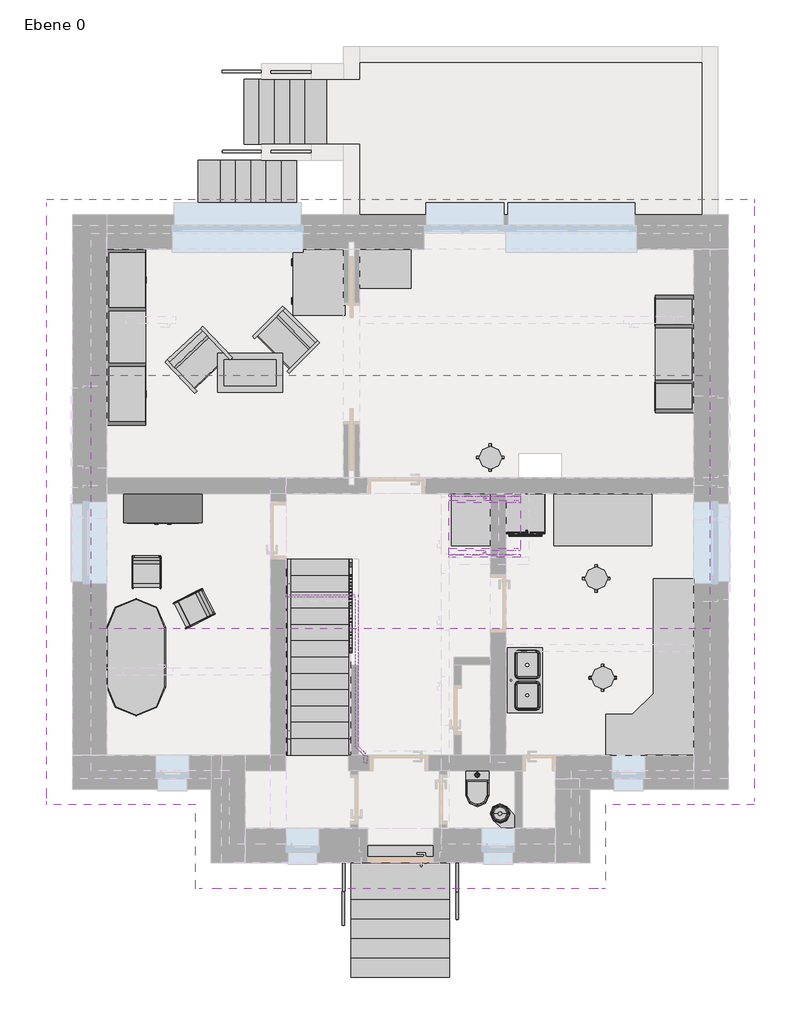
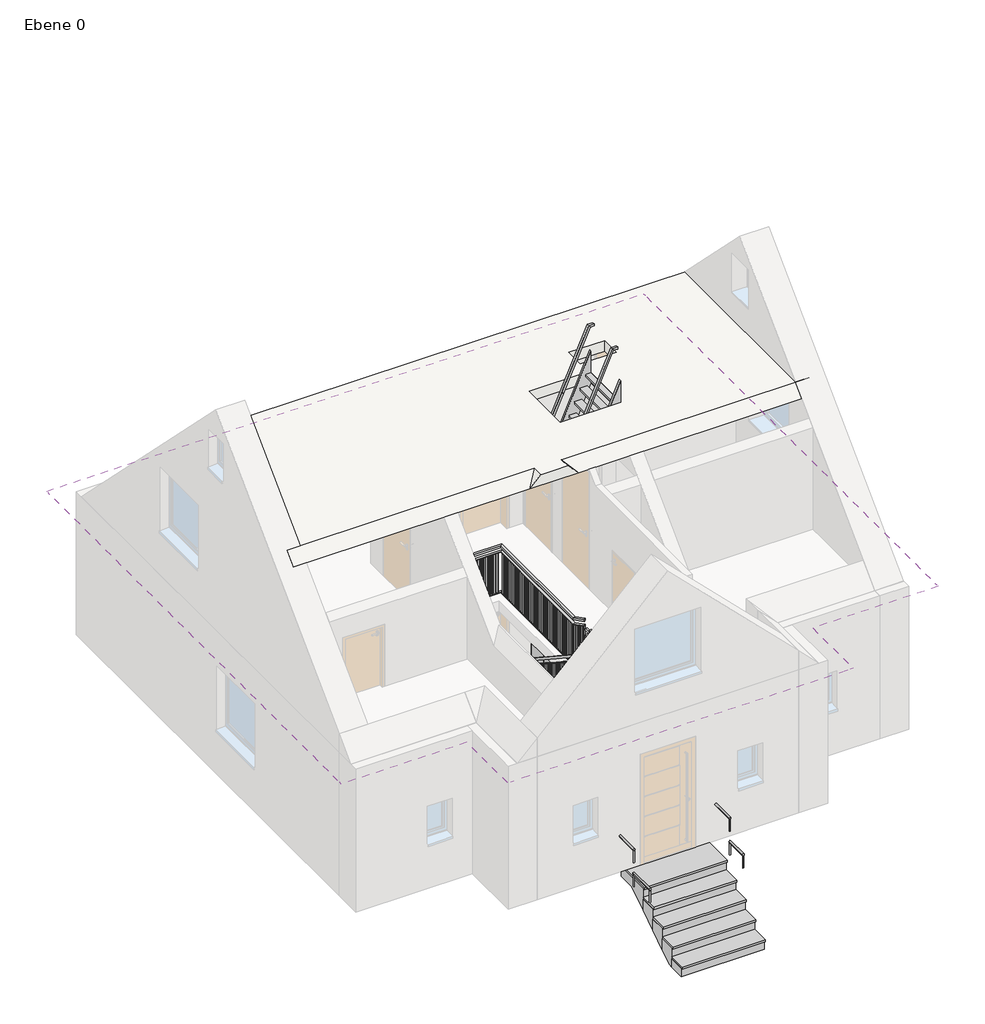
# One storey, part 3 of 3: 17 furniture elements, 16 railings, 5 stair flights, 4 members, 3 flow terminals, 3 slabs, 2 proxies, 1 roof.
"""IFC4 building model written with IfcOpenShell, lengths in millimetres."""

from ifc_helpers import new_model, si_unit, frame, origin, place, context, project, spatial, polyline, outline, extrude, faceted_brep, transform, mapped, element, save
from components import electrical_equipment_04802fdb, electrical_equipment_621d5f77, flow_terminal_1000_x_535_82328010, flow_terminal_35_x_55cm_6441f3d0, waschbecken_03_waschbecken_093a886d, furniture_1000_x_600_x_450_2671d195, furniture_1000_x_760_x_760_02e18f98, furniture_800_x_600_x_800_ba27f6a6, schrank_09_1200_x_450_x_2200_a26f84f2, schrank_12_1800_x_600_x_1800_5341ef42, schrank_12_2700_x_600_x_2100_568bd233, sofa_05_b_800_2b4523ea, stuhl_04_typ1_6c77dc19, tisch_08_oval_1800_x_900_glas_ae678d82, tisch_17_1500_x_800_x_750_a301e799, typ1_ea9e3636, typ1_24384e5f, railing_ba4ef4f0, railing_844731f6, railing_a331e073, railing_564460aa, railing_68ffcd14, railing_879b9470, railing_46543788, railing_ffa2e5ba, railing_2217c0fb, railing_82520da3, railing_3a00c38e, railing_bb0542ad, handlauf_holz_37a11ede, handlauf_holz_fd729e07, handlauf_holz_bf88dba0, handlauf_holz_f6a84104, stair_flight_0ae1a87a, stair_flight_21483602

model = new_model("IFC4")

# Units and contexts
model_context = context("Model", 3, world=origin())
ifc_project = project(units=[si_unit("LENGTHUNIT", "METRE", prefix="MILLI")], contexts=[model_context])

# Site, building, storey
site = spatial("IfcSite", under=ifc_project)
building = spatial("IfcBuilding", under=site)
storey = spatial("IfcBuildingStorey", under=building, Name="Ebene 0", Elevation=1000.0)

# Proxies
placement = place(None, origin())
electrical_equipment_shape = electrical_equipment_04802fdb(model_context)
element("IfcBuildingElementProxy", 1, Name="Backofen-Herdplatte-Kombi : 850  x 597  x 597", ObjectType="Backofen-Herdplatte-Kombi : 850  x 597  x 597", at=placement, inside=storey, context=model_context, shape_type="MappedRepresentation", body=[
    mapped(electrical_equipment_shape, transform((4658.6733882, 5200.0, 1100.0), x_axis=(1.0, 0.0, 0.0), y_axis=(0.0, 1.0, 0.0), z_axis=(0.0, 0.0, 1.0))),
])
electrical_equipment_2_shape = electrical_equipment_621d5f77(model_context)
element("IfcBuildingElementProxy", 2, Name="Glas-Kochfläche-6fach eingefasst-Kante : 576  x 516", ObjectType="Glas-Kochfläche-6fach eingefasst-Kante : 576  x 516", at=placement, inside=storey, context=model_context, shape_type="MappedRepresentation", body=[
    mapped(electrical_equipment_2_shape, transform((4663.5, 5201.5, 1950.0), x_axis=(1.0, 0.0, 0.0), y_axis=(0.0, 1.0, 0.0), z_axis=(0.0, 0.0, 1.0))),
])

# Flow terminals
flow_terminal_1000_x_535_shape = flow_terminal_1000_x_535_82328010(model_context)
element("IfcFlowTerminal", 3, ObjectType="Spülbecken Küche-Doppelt : 1000 x 535", at=placement, inside=storey, context=model_context, shape_type="MappedRepresentation", body=[
    mapped(flow_terminal_1000_x_535_shape, transform((4655.5454011, 2622.4107594, 1800.0), x_axis=(0.0, 1.0, 0.0), y_axis=(-1.0, 0.0, 0.0), z_axis=(0.0, 0.0, 1.0))),
])
flow_terminal_35_x_55cm_shape = flow_terminal_35_x_55cm_6441f3d0(model_context)
element("IfcFlowTerminal", 4, ObjectType="WC AP-Druckspüler : 35 x 55cm", at=placement, inside=storey, context=model_context, shape_type="MappedRepresentation", body=[
    mapped(flow_terminal_35_x_55cm_shape, transform((3925.0, 1250.0, 1100.0), x_axis=(1.0, 0.0, 0.0), y_axis=(0.0, 1.0, 0.0), z_axis=(0.0, 0.0, 1.0))),
])
waschbecken_03_waschbecken_shape = waschbecken_03_waschbecken_093a886d(model_context)
element("IfcFlowTerminal", 5, ObjectType="Waschbecken 03 : Waschbecken", at=placement, inside=storey, context=model_context, shape_type="MappedRepresentation", body=[
    mapped(waschbecken_03_waschbecken_shape, transform((4500.0, 376.4966705, 1100.0), x_axis=(-0.9997802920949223, -0.02096109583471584, 0.0), y_axis=(0.02096109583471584, -0.9997802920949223, 0.0), z_axis=(0.0, 0.0, 1.0))),
])

# Furniture
furniture_1000_x_600_x_450_shape = furniture_1000_x_600_x_450_2671d195(model_context)
element("IfcFurniture", 6, ObjectType="Tisch-05 Glasausschnitt : 1000 x 600 x 450", at=placement, inside=storey, context=model_context, shape_type="MappedRepresentation", body=[
    mapped(furniture_1000_x_600_x_450_shape, transform((421.7342333, 7254.7889222, 1000.0), x_axis=(1.0, 0.0, 0.0), y_axis=(0.0, 1.0, 0.0), z_axis=(0.0, 0.0, 1.0))),
])
furniture_1000_x_760_x_760_shape = furniture_1000_x_760_x_760_02e18f98(model_context)
element("IfcFurniture", 7, ObjectType="Schreibtisch-06 : 1000 x 760 x 760", at=placement, inside=storey, context=model_context, shape_type="MappedRepresentation", body=[
    mapped(furniture_1000_x_760_x_760_shape, transform((1114.0, 9512.0, 1000.0), x_axis=(0.0, -1.0, 0.0), y_axis=(1.0, 0.0, 0.0), z_axis=(0.0, 0.0, 1.0))),
])
furniture_800_x_600_x_800_shape = furniture_800_x_600_x_800_ba27f6a6(model_context)
element("IfcFurniture", 8, ObjectType="Kommode-01 : 800 x 600 x 800", at=placement, inside=storey, context=model_context, shape_type="MappedRepresentation", body=[
    mapped(furniture_800_x_600_x_800_shape, transform((3725.0, 5100.0, 1000.0), x_axis=(0.0, -1.0, 0.0), y_axis=(1.0, 0.0, 0.0), z_axis=(0.0, 0.0, 1.0))),
])
element("IfcFurniture", 9, ObjectType="Kommode-01 : 800 x 600 x 800", at=placement, inside=storey, context=model_context, shape_type="MappedRepresentation", body=[
    mapped(furniture_800_x_600_x_800_shape, transform((2505.0, 8850.0, 1000.0), x_axis=(1.0, 0.0, 0.0), y_axis=(0.0, 1.0, 0.0), z_axis=(0.0, 0.0, 1.0))),
])
schrank_09_1200_x_450_x_2200_shape = schrank_09_1200_x_450_x_2200_a26f84f2(model_context)
element("IfcFurniture", 10, ObjectType="Schrank-09 : 1200 x 450 x 2200", at=placement, inside=storey, context=model_context, shape_type="MappedRepresentation", body=[
    mapped(schrank_09_1200_x_450_x_2200_shape, transform((-630.8067402, 5638.1629541, 1000.0), x_axis=(1.0, 0.0, 0.0), y_axis=(0.0, 1.0, 0.0), z_axis=(0.0, 0.0, 1.0))),
])
schrank_12_1800_x_600_x_1800_shape = schrank_12_1800_x_600_x_1800_5341ef42(model_context)
element("IfcFurniture", 11, ObjectType="Schrank-12 : 1800 x 600 x 1800", at=placement, inside=storey, context=model_context, shape_type="MappedRepresentation", body=[
    mapped(schrank_12_1800_x_600_x_1800_shape, transform((7356.4, 7640.0, 1000.0), x_axis=(0.0, -1.0, 0.0), y_axis=(1.0, 0.0, 0.0), z_axis=(0.0, 0.0, 1.0))),
])
schrank_12_2700_x_600_x_2100_shape = schrank_12_2700_x_600_x_2100_568bd233(model_context)
element("IfcFurniture", 12, ObjectType="Schrank-12 : 2700 x 600 x 2100", at=placement, inside=storey, context=model_context, shape_type="MappedRepresentation", body=[
    mapped(schrank_12_2700_x_600_x_2100_shape, transform((-1866.4, 7900.0, 1000.0), x_axis=(0.0, 1.0, 0.0), y_axis=(-1.0, 0.0, 0.0), z_axis=(0.0, 0.0, 1.0))),
])
sofa_05_b_800_shape = sofa_05_b_800_2b4523ea(model_context)
element("IfcFurniture", 13, ObjectType="Sofa-05 : B 800", at=placement, inside=storey, context=model_context, shape_type="MappedRepresentation", body=[
    mapped(sofa_05_b_800_shape, transform((-300.7139071, 7395.4558069, 1000.0), x_axis=(0.7265975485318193, 0.6870633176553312, 0.0), y_axis=(-0.6870633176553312, 0.7265975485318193, 0.0), z_axis=(0.0, 0.0, 1.0))),
])
element("IfcFurniture", 14, ObjectType="Sofa-05 : B 800", at=placement, inside=storey, context=model_context, shape_type="MappedRepresentation", body=[
    mapped(sofa_05_b_800_shape, transform((836.893994, 7805.7563155, 1000.0), x_axis=(0.7071067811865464, -0.7071067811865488, 0.0), y_axis=(0.7071067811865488, 0.7071067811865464, 0.0), z_axis=(0.0, 0.0, 1.0))),
])
stuhl_04_typ1_shape = stuhl_04_typ1_6c77dc19(model_context)
element("IfcFurniture", 15, ObjectType="Stuhl-04 : Typ1", at=placement, inside=storey, context=model_context, shape_type="MappedRepresentation", body=[
    mapped(stuhl_04_typ1_shape, transform((-797.8947, 4524.7408621, 1000.0), x_axis=(1.0, 0.0, 0.0), y_axis=(0.0, 1.0, 0.0), z_axis=(0.0, 0.0, 1.0))),
])
element("IfcFurniture", 16, ObjectType="Stuhl-04 : Typ1", at=placement, inside=storey, context=model_context, shape_type="MappedRepresentation", body=[
    mapped(stuhl_04_typ1_shape, transform((-57.5438469, 3524.477641, 1000.0), x_axis=(0.4470333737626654, -0.8945172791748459, 0.0), y_axis=(0.8945172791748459, 0.4470333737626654, 0.0), z_axis=(0.0, 0.0, 1.0))),
])
tisch_08_oval_1800_x_900_glas_shape = tisch_08_oval_1800_x_900_glas_ae678d82(model_context)
element("IfcFurniture", 17, ObjectType="Tisch-08 oval : 1800 x 900 Glas", at=placement, inside=storey, context=model_context, shape_type="MappedRepresentation", body=[
    mapped(tisch_08_oval_1800_x_900_glas_shape, transform((-1668.0983607, 3391.8196721, 1000.0), x_axis=(0.0, 1.0, 0.0), y_axis=(-1.0, 0.0, 0.0), z_axis=(0.0, 0.0, 1.0))),
])
tisch_17_1500_x_800_x_750_shape = tisch_17_1500_x_800_x_750_a301e799(model_context)
element("IfcFurniture", 18, ObjectType="Tisch-17 : 1500 x 800 x 750", at=placement, inside=storey, context=model_context, shape_type="MappedRepresentation", body=[
    mapped(tisch_17_1500_x_800_x_750_shape, transform((5834.682456, 5060.8700593, 1100.0), x_axis=(1.0, 0.0, 0.0), y_axis=(0.0, 1.0, 0.0), z_axis=(0.0, 0.0, 1.0))),
])
typ1_shape = typ1_ea9e3636(model_context)
element("IfcFurniture", 19, ObjectType="Küchenzeile-05 Kombination : Typ1", at=placement, inside=storey, context=model_context, shape_type="MappedRepresentation", body=[
    mapped(typ1_shape, transform((8240.9255592, 3558.8064056, 1100.0), x_axis=(0.0, -1.0, 0.0), y_axis=(1.0, 0.0, 0.0), z_axis=(0.0, 0.0, 1.0))),
])
typ1_2_shape = typ1_24384e5f(model_context)
element("IfcFurniture", 20, ObjectType="Hocker-04 : Typ1", at=placement, inside=storey, context=model_context, shape_type="MappedRepresentation", body=[
    mapped(typ1_2_shape, transform((5750.0, 4200.0, 1100.0), x_axis=(1.0, 0.0, 0.0), y_axis=(0.0, 1.0, 0.0), z_axis=(0.0, 0.0, 1.0))),
])
element("IfcFurniture", 21, ObjectType="Hocker-04 : Typ1", at=placement, inside=storey, context=model_context, shape_type="MappedRepresentation", body=[
    mapped(typ1_2_shape, transform((5850.0, 2675.0, 1100.0), x_axis=(1.0, 0.0, 0.0), y_axis=(0.0, 1.0, 0.0), z_axis=(0.0, 0.0, 1.0))),
])
element("IfcFurniture", 22, ObjectType="Hocker-04 : Typ1", at=placement, inside=storey, context=model_context, shape_type="MappedRepresentation", body=[
    mapped(typ1_2_shape, transform((4125.0, 6050.868232, 1000.0), x_axis=(1.0, 0.0, 0.0), y_axis=(0.0, 1.0, 0.0), z_axis=(0.0, 0.0, 1.0))),
])

# Members
element("IfcMember", 23, ObjectType="Holz 40 x 260", at=placement, inside=storey, context=model_context, shape_type="SweptSolid", body=[
    extrude(outline(polyline([(4490.0, -1001.5849467), (4490.0, -1200.0), (4320.9042035, -1200.0), (1490.0, 875.9964159), (1490.0, 1198.4150533), (4490.0, -1001.5849467)])), frame((1980.0, 0.0, 0.0), z_axis=(1.0, 0.0, 0.0), x_axis=(0.0, 1.0, 0.0)), (0.0, 0.0, 1.0), 40.0),
])
element("IfcMember", 24, ObjectType="Holz 40 x 260", at=placement, inside=storey, context=model_context, shape_type="SweptSolid", body=[
    extrude(outline(polyline([(4490.0, -1001.5849467), (4490.0, -1200.0), (4320.9042035, -1200.0), (1490.0, 875.9964159), (1490.0, 1198.4150533), (4490.0, -1001.5849467)])), frame((940.0, 0.0, 0.0), z_axis=(1.0, 0.0, 0.0), x_axis=(0.0, 1.0, 0.0)), (0.0, 0.0, 1.0), 40.0),
])
element("IfcMember", 25, ObjectType="Holz 40 x 260", at=placement, inside=storey, context=model_context, shape_type="SweptSolid", body=[
    extrude(outline(polyline([(4163.2481927, 3490.0), (3750.0, 3490.0), (3750.0, 3592.2260011), (6017.6681792, 4590.0), (6663.2481927, 4590.0), (4163.2481927, 3490.0)])), frame((0.0, 5460.0, 0.0), z_axis=(0.0, 1.0, 0.0), x_axis=(0.0, 0.0, 1.0)), (0.0, 0.0, 1.0), 40.0),
])
element("IfcMember", 26, ObjectType="Holz 40 x 260", at=placement, inside=storey, context=model_context, shape_type="SweptSolid", body=[
    extrude(outline(polyline([(4163.2481927, 3490.0), (3750.0, 3490.0), (3750.0, 3592.2260011), (6017.6681792, 4590.0), (6663.2481927, 4590.0), (4163.2481927, 3490.0)])), frame((0.0, 4520.0, 0.0), z_axis=(0.0, 1.0, 0.0), x_axis=(0.0, 0.0, 1.0)), (0.0, 0.0, 1.0), 40.0),
])

# Railings
railing_shape = railing_ba4ef4f0(model_context)
element("IfcRailing", 27, ObjectType="Vertikale Stäbe mit Handlauf", at=placement, inside=storey, context=model_context, shape_type="MappedRepresentation", body=[
    mapped(railing_shape, transform((0.0, 0.0, 0.0), x_axis=(1.0, 0.0, 0.0), y_axis=(0.0, 1.0, 0.0), z_axis=(0.0, 0.0, 1.0))),
])
railing_2_shape = railing_844731f6(model_context)
element("IfcRailing", 28, ObjectType="Vertikale Stäbe", at=placement, inside=storey, context=model_context, shape_type="MappedRepresentation", body=[
    mapped(railing_2_shape, transform((0.0, 0.0, 0.0), x_axis=(1.0, 0.0, 0.0), y_axis=(0.0, 1.0, 0.0), z_axis=(0.0, 0.0, 1.0))),
])
railing_3_shape = railing_a331e073(model_context)
element("IfcRailing", 29, ObjectType="Geländer-1", at=placement, inside=storey, context=model_context, shape_type="MappedRepresentation", body=[
    mapped(railing_3_shape, transform((0.0, 0.0, 0.0), x_axis=(1.0, 0.0, 0.0), y_axis=(0.0, 1.0, 0.0), z_axis=(0.0, 0.0, 1.0))),
])
railing_4_shape = railing_564460aa(model_context)
element("IfcRailing", 30, ObjectType="Geländer-1", at=placement, inside=storey, context=model_context, shape_type="MappedRepresentation", body=[
    mapped(railing_4_shape, transform((0.0, 0.0, 0.0), x_axis=(1.0, 0.0, 0.0), y_axis=(0.0, 1.0, 0.0), z_axis=(0.0, 0.0, 1.0))),
])
railing_5_shape = railing_68ffcd14(model_context)
element("IfcRailing", 31, ObjectType="Geländer-1", at=placement, inside=storey, context=model_context, shape_type="MappedRepresentation", body=[
    mapped(railing_5_shape, transform((0.0, 0.0, 0.0), x_axis=(1.0, 0.0, 0.0), y_axis=(0.0, 1.0, 0.0), z_axis=(0.0, 0.0, 1.0))),
])
railing_6_shape = railing_879b9470(model_context)
element("IfcRailing", 32, ObjectType="Geländer-1", at=placement, inside=storey, context=model_context, shape_type="MappedRepresentation", body=[
    mapped(railing_6_shape, transform((0.0, 0.0, 0.0), x_axis=(1.0, 0.0, 0.0), y_axis=(0.0, 1.0, 0.0), z_axis=(0.0, 0.0, 1.0))),
])
railing_7_shape = railing_46543788(model_context)
element("IfcRailing", 33, ObjectType="Vertikale Stäbe mit Handlauf", at=placement, inside=storey, context=model_context, shape_type="MappedRepresentation", body=[
    mapped(railing_7_shape, transform((0.0, 0.0, 0.0), x_axis=(1.0, 0.0, 0.0), y_axis=(0.0, 1.0, 0.0), z_axis=(0.0, 0.0, 1.0))),
])
railing_8_shape = railing_ffa2e5ba(model_context)
element("IfcRailing", 34, ObjectType="Vertikale Stäbe mit Handlauf", at=placement, inside=storey, context=model_context, shape_type="MappedRepresentation", body=[
    mapped(railing_8_shape, transform((0.0, 0.0, 0.0), x_axis=(1.0, 0.0, 0.0), y_axis=(0.0, 1.0, 0.0), z_axis=(0.0, 0.0, 1.0))),
])
railing_9_shape = railing_2217c0fb(model_context)
element("IfcRailing", 35, ObjectType="Geländer-1", at=placement, inside=storey, context=model_context, shape_type="MappedRepresentation", body=[
    mapped(railing_9_shape, transform((0.0, 0.0, 0.0), x_axis=(1.0, 0.0, 0.0), y_axis=(0.0, 1.0, 0.0), z_axis=(0.0, 0.0, 1.0))),
])
railing_10_shape = railing_82520da3(model_context)
element("IfcRailing", 36, ObjectType="Geländer-1", at=placement, inside=storey, context=model_context, shape_type="MappedRepresentation", body=[
    mapped(railing_10_shape, transform((0.0, 0.0, 0.0), x_axis=(1.0, 0.0, 0.0), y_axis=(0.0, 1.0, 0.0), z_axis=(0.0, 0.0, 1.0))),
])
railing_11_shape = railing_3a00c38e(model_context)
element("IfcRailing", 37, ObjectType="Geländer-1", at=placement, inside=storey, context=model_context, shape_type="MappedRepresentation", body=[
    mapped(railing_11_shape, transform((0.0, 0.0, 0.0), x_axis=(1.0, 0.0, 0.0), y_axis=(0.0, 1.0, 0.0), z_axis=(0.0, 0.0, 1.0))),
])
railing_12_shape = railing_bb0542ad(model_context)
element("IfcRailing", 38, ObjectType="Geländer-1", at=placement, inside=storey, context=model_context, shape_type="MappedRepresentation", body=[
    mapped(railing_12_shape, transform((0.0, 0.0, 0.0), x_axis=(1.0, 0.0, 0.0), y_axis=(0.0, 1.0, 0.0), z_axis=(0.0, 0.0, 1.0))),
])
handlauf_holz_shape = handlauf_holz_37a11ede(model_context)
element("IfcRailing", 39, ObjectType="Handlauf Holz", at=placement, inside=storey, context=model_context, shape_type="MappedRepresentation", body=[
    mapped(handlauf_holz_shape, transform((0.0, 0.0, 0.0), x_axis=(1.0, 0.0, 0.0), y_axis=(0.0, 1.0, 0.0), z_axis=(0.0, 0.0, 1.0))),
])
handlauf_holz_2_shape = handlauf_holz_fd729e07(model_context)
element("IfcRailing", 40, ObjectType="Handlauf Holz", at=placement, inside=storey, context=model_context, shape_type="MappedRepresentation", body=[
    mapped(handlauf_holz_2_shape, transform((0.0, 0.0, 0.0), x_axis=(1.0, 0.0, 0.0), y_axis=(0.0, 1.0, 0.0), z_axis=(0.0, 0.0, 1.0))),
])
handlauf_holz_3_shape = handlauf_holz_bf88dba0(model_context)
element("IfcRailing", 41, ObjectType="Handlauf Holz", at=placement, inside=storey, context=model_context, shape_type="MappedRepresentation", body=[
    mapped(handlauf_holz_3_shape, transform((0.0, 0.0, 0.0), x_axis=(1.0, 0.0, 0.0), y_axis=(0.0, 1.0, 0.0), z_axis=(0.0, 0.0, 1.0))),
])
handlauf_holz_4_shape = handlauf_holz_f6a84104(model_context)
element("IfcRailing", 42, ObjectType="Handlauf Holz", at=placement, inside=storey, context=model_context, shape_type="MappedRepresentation", body=[
    mapped(handlauf_holz_4_shape, transform((0.0, 0.0, 0.0), x_axis=(1.0, 0.0, 0.0), y_axis=(0.0, 1.0, 0.0), z_axis=(0.0, 0.0, 1.0))),
])

# Roof
element("IfcRoof", 43, ObjectType="Ziegeldach 360", at=placement, inside=storey, context=model_context, shape_type="Brep", body=[
    faceted_brep([(3.0508653, 1128.0508653, 3753.0508653), (-2685.0, 1128.0508653, 3753.0508653), (-2685.0, 5370.0, 7995.0), (8175.0, 5370.0, 7995.0), (8175.0, 1128.0508653, 3753.0508653), (5486.9491347, 1128.0508653, 3753.0508653), (3190.0, 3425.0, 6050.0), (2990.0, 3625.0, 6250.0), (2745.0, 3870.0, 6495.0), (2500.0, 3625.0, 6250.0), (2300.0, 3425.0, 6050.0), (960.0, 2085.0, 4710.0), (750.0, 1875.0, 4500.0), (2745.0, 365.0, 6495.0), (2745.0, -160.0, 6495.0), (2745.0, -560.0, 6495.0), (3.0508653, -560.0, 3753.0508653), (5486.9491347, -560.0, 3753.0508653), (-2685.0, 9611.9491347, 3753.0508653), (8175.0, 9611.9491347, 3753.0508653), (5215.0, 5751.2341615, 7613.7658385), (5215.0, 6111.2341615, 7253.7658385), (4565.0, 6111.2341615, 7253.7658385), (4565.0, 5751.2341615, 7613.7658385), (-400.0, 725.0, 3859.1168825), (2745.0, 3870.0, 7004.1168825), (5890.0, 725.0, 3859.1168825), (8175.0, 725.0, 3859.1168825), (8175.0, 5370.0, 8504.1168825), (-2685.0, 5370.0, 8504.1168825), (-2685.0, 725.0, 3859.1168825), (-400.0, -560.0, 3859.1168825), (2745.0, -560.0, 7004.1168825), (5890.0, -560.0, 3859.1168825), (8175.0, 10015.0, 3859.1168825), (-2685.0, 10015.0, 3859.1168825), (5215.0, 6111.2341615, 7762.8827209), (5215.0, 5751.2341615, 8122.8827209), (4565.0, 5751.2341615, 8122.8827209), (4565.0, 6111.2341615, 7762.8827209), (-293.9339828, -560.0, 3753.0508653), (-293.9339828, 831.0660172, 3753.0508653), (-2685.0, 831.0660172, 3753.0508653), (8175.0, 831.0660172, 3753.0508653), (5783.9339828, 831.0660172, 3753.0508653), (5783.9339828, -560.0, 3753.0508653), (-2685.0, 9908.9339828, 3753.0508653), (8175.0, 9908.9339828, 3753.0508653)], [[[0, 1, 2, 3, 4, 5, 6, 7, 8, 9, 10, 11, 12]], [[0, 12, 11, 10, 9, 8, 13, 14, 15, 16]], [[8, 7, 6, 5, 17, 15, 14, 13]], [[3, 2, 18, 19], [20, 21, 22, 23]], [[24, 25, 26, 27, 28, 29, 30]], [[25, 24, 31, 32]], [[26, 25, 32, 33]], [[29, 28, 34, 35], [36, 37, 38, 39]], [[1, 0, 16, 40, 41, 42]], [[5, 4, 43, 44, 45, 17]], [[19, 18, 46, 47]], [[2, 1, 42, 30, 29, 35, 46, 18]], [[16, 15, 17, 45, 33, 32, 31, 40]], [[4, 3, 19, 47, 34, 28, 27, 43]], [[24, 30, 42, 41]], [[31, 24, 41, 40]], [[26, 33, 45, 44]], [[27, 26, 44, 43]], [[35, 34, 47, 46]], [[20, 37, 36, 21]], [[21, 36, 39, 22]], [[22, 39, 38, 23]], [[37, 20, 23, 38]]]),
])

# Slabs
element("IfcSlab", 44, ObjectType="FB 100 Terrazzo", at=placement, inside=storey, context=model_context, shape_type="SweptSolid", body=[
    extrude(outline(polyline([(-127.7321905, -360.0), (-1327.7321905, 1150.0), (-1200.0, 1150.0), (0.0, -360.0), (-127.7321905, -360.0)])), frame((0.0, 9615.0, 0.0), z_axis=(0.0, 1.0, 0.0), x_axis=(0.0, 0.0, 1.0)), (0.0, 0.0, 1.0), 1000.0),
])
element("IfcSlab", 45, ObjectType="STB 200", at=placement, inside=storey, context=model_context, shape_type="Brep", body=[
    faceted_brep([(1995.0, 12235.0, 800.0), (7375.0, 12235.0, 800.0), (7495.0, 12235.0, 800.0), (7495.0, 9775.0, 800.0), (7495.0, 9615.0, 800.0), (1995.0, 9615.0, 800.0), (1995.0, 9775.0, 800.0), (1995.0, 10735.0, 800.0), (1875.0, 10735.0, 800.0), (1620.0, 10735.0, 800.0), (1620.0, 11855.0, 800.0), (1995.0, 11855.0, 800.0), (7495.0, 12235.0, 1000.0), (7375.0, 12235.0, 1000.0), (1995.0, 12235.0, 1000.0), (1995.0, 11855.0, 1000.0), (1875.0, 11855.0, 1000.0), (1620.0, 11855.0, 1000.0), (1620.0, 10855.0, 1000.0), (1620.0, 10735.0, 1000.0), (1875.0, 10735.0, 1000.0), (1995.0, 10735.0, 1000.0), (1995.0, 9775.0, 1000.0), (1995.0, 9615.0, 1000.0), (7495.0, 9615.0, 1000.0), (7495.0, 9775.0, 1000.0), (1620.0, 11855.0, 960.0), (1620.0, 10855.0, 960.0), (1620.0, 10845.0, 960.0), (1620.0, 10845.0, 850.0), (1620.0, 11855.0, 850.0), (1630.0, 11855.0, 850.0), (1630.0, 11855.0, 960.0), (1630.0, 10845.0, 960.0), (1630.0, 10845.0, 850.0)], [[[0, 1, 2, 3, 4, 5, 6, 7, 8, 9, 10, 11]], [[12, 13, 14, 15, 16, 17, 18, 19, 20, 21, 22, 23, 24, 25]], [[2, 1, 0, 14, 13, 12]], [[4, 3, 2, 12, 25, 24]], [[5, 4, 24, 23]], [[7, 6, 5, 23, 22, 21]], [[9, 8, 7, 21, 20, 19]], [[10, 9, 19, 18, 17, 26, 27, 28, 29, 30]], [[11, 10, 30, 31, 32, 26, 17, 16, 15]], [[0, 11, 15, 14]], [[32, 33, 28, 27, 26]], [[29, 34, 31, 30]], [[33, 34, 29, 28]], [[34, 33, 32, 31]]]),
])
element("IfcSlab", 46, ObjectType="STB 200", at=placement, inside=storey, context=model_context, shape_type="Brep", body=[
    faceted_brep([(7490.0, 7315.0, 6050.0), (7490.0, 3425.0, 6050.0), (3190.0, 3425.0, 6050.0), (2300.0, 3425.0, 6050.0), (-1760.0, 3425.0, 6050.0), (-2000.0, 3425.0, 6050.0), (-2000.0, 7315.0, 6050.0), (-1760.0, 7315.0, 6050.0), (3490.0, 4520.0, 6050.0), (4590.0, 4520.0, 6050.0), (4590.0, 5500.0, 6050.0), (3490.0, 5500.0, 6050.0), (5215.0, 5751.2341615, 6050.0), (5215.0, 6111.2341615, 6050.0), (4565.0, 6111.2341615, 6050.0), (4565.0, 5751.2341615, 6050.0), (-2000.0, 7115.0, 6250.0), (-2000.0, 3625.0, 6250.0), (-1760.0, 3625.0, 6250.0), (2500.0, 3625.0, 6250.0), (2500.0, 3425.0, 6250.0), (2990.0, 3425.0, 6250.0), (2990.0, 3625.0, 6250.0), (7490.0, 3625.0, 6250.0), (7490.0, 7115.0, 6250.0), (-1760.0, 7115.0, 6250.0), (4590.0, 4520.0, 6250.0), (3490.0, 4520.0, 6250.0), (3490.0, 5500.0, 6250.0), (4590.0, 5500.0, 6250.0), (5215.0, 6111.2341615, 6250.0), (5215.0, 5751.2341615, 6250.0), (4565.0, 5751.2341615, 6250.0), (4565.0, 6111.2341615, 6250.0)], [[[0, 1, 2, 3, 4, 5, 6, 7], [8, 9, 10, 11], [12, 13, 14, 15]], [[16, 17, 18, 19, 20, 21, 22, 23, 24, 25], [26, 27, 28, 29], [30, 31, 32, 33]], [[1, 0, 24, 23]], [[3, 2, 21, 20]], [[6, 5, 17, 16]], [[3, 19, 18, 17, 5, 4]], [[22, 2, 1, 23]], [[19, 3, 20]], [[2, 22, 21]], [[0, 7, 6, 16, 25, 24]], [[9, 8, 27, 26]], [[10, 9, 26, 29]], [[11, 10, 29, 28]], [[8, 11, 28, 27]], [[12, 31, 30, 13]], [[13, 30, 33, 14]], [[14, 33, 32, 15]], [[31, 12, 15, 32]]]),
])

# Stair flights
element("IfcStairFlight", 47, ObjectType="Naturstein - Auftritt 40 / Trittüberstand 30", at=placement, inside=storey, context=model_context, shape_type="SolidModel", body=[
    faceted_brep([(610.0, 11855.0, 160.0), (375.0, 11855.0, 160.0), (375.0, 10855.0, 160.0), (610.0, 10855.0, 160.0), (610.0, 11855.0, 0.0), (375.0, 11855.0, 0.0), (375.0, 10855.0, 0.0), (610.0, 10855.0, 0.0), (845.0, 11855.0, 360.0), (610.0, 11855.0, 360.0), (610.0, 10855.0, 360.0), (845.0, 10855.0, 360.0), (845.0, 11855.0, 123.6366517), (699.7269342, 11855.0, 0.0), (699.7269342, 10855.0, 0.0), (845.0, 10855.0, 123.6366517), (1080.0, 11855.0, 560.0), (845.0, 11855.0, 560.0), (845.0, 10855.0, 560.0), (1080.0, 10855.0, 560.0), (1080.0, 11855.0, 323.6366517), (1080.0, 10855.0, 323.6366517), (1315.0, 11855.0, 760.0), (1080.0, 11855.0, 760.0), (1080.0, 10855.0, 760.0), (1315.0, 10855.0, 760.0), (1315.0, 11855.0, 523.6366517), (1315.0, 10855.0, 523.6366517), (1315.0, 11855.0, 960.0), (1315.0, 10855.0, 960.0), (1620.0, 10855.0, 960.0), (1620.0, 11855.0, 960.0), (1620.0, 11855.0, 860.0), (1520.0, 11855.0, 860.0), (1520.0, 11855.0, 698.1047368), (1520.0, 10855.0, 698.1047368), (1520.0, 10855.0, 860.0), (1620.0, 10855.0, 860.0)], [[[0, 1, 2, 3]], [[1, 0, 4, 5]], [[2, 1, 5, 6]], [[3, 2, 6, 7]], [[8, 9, 10, 11]], [[4, 0, 9, 8, 12, 13]], [[0, 3, 10, 9]], [[3, 7, 14, 15, 11, 10]], [[16, 17, 18, 19]], [[17, 16, 20, 12, 8]], [[8, 11, 18, 17]], [[19, 18, 11, 15, 21]], [[22, 23, 24, 25]], [[23, 22, 26, 20, 16]], [[16, 19, 24, 23]], [[25, 24, 19, 21, 27]], [[28, 29, 30, 31]], [[28, 31, 32, 33, 34, 26, 22]], [[22, 25, 29, 28]], [[30, 29, 25, 27, 35, 36, 37]], [[35, 34, 33, 36]], [[5, 4, 13, 14, 7, 6]], [[14, 13, 12, 20, 26, 34, 35, 27, 21, 15]], [[37, 36, 33, 32]], [[37, 32, 31, 30]]]),
    extrude(outline(polyline([(610.0, 11855.0), (610.0, 10855.0), (345.0, 10855.0), (345.0, 11855.0), (610.0, 11855.0)])), frame((0.0, 0.0, 160.0), z_axis=(0.0, 0.0, 1.0), x_axis=(1.0, 0.0, 0.0)), (0.0, 0.0, 1.0), 40.0),
    extrude(outline(polyline([(845.0, 11855.0), (845.0, 10855.0), (580.0, 10855.0), (580.0, 11855.0), (845.0, 11855.0)])), frame((0.0, 0.0, 360.0), z_axis=(0.0, 0.0, 1.0), x_axis=(1.0, 0.0, 0.0)), (0.0, 0.0, 1.0), 40.0),
    extrude(outline(polyline([(1080.0, 11855.0), (1080.0, 10855.0), (815.0, 10855.0), (815.0, 11855.0), (1080.0, 11855.0)])), frame((0.0, 0.0, 560.0), z_axis=(0.0, 0.0, 1.0), x_axis=(1.0, 0.0, 0.0)), (0.0, 0.0, 1.0), 40.0),
    extrude(outline(polyline([(1315.0, 11855.0), (1315.0, 10855.0), (1050.0, 10855.0), (1050.0, 11855.0), (1315.0, 11855.0)])), frame((0.0, 0.0, 760.0), z_axis=(0.0, 0.0, 1.0), x_axis=(1.0, 0.0, 0.0)), (0.0, 0.0, 1.0), 40.0),
    extrude(outline(polyline([(1620.0, 11855.0), (1620.0, 10855.0), (1285.0, 10855.0), (1285.0, 11855.0), (1620.0, 11855.0)])), frame((0.0, 0.0, 960.0), z_axis=(0.0, 0.0, 1.0), x_axis=(1.0, 0.0, 0.0)), (0.0, 0.0, 1.0), 40.0),
])
element("IfcStairFlight", 48, ObjectType="Naturstein - Auftritt 40 / Trittüberstand 30", at=placement, inside=storey, context=model_context, shape_type="SolidModel", body=[
    faceted_brep([(885.0, 9615.0, -1040.0), (1120.0, 9615.0, -1040.0), (1120.0, 10615.0, -1040.0), (885.0, 10615.0, -1040.0), (885.0, 9615.0, -1200.0), (1120.0, 9615.0, -1200.0), (1120.0, 10615.0, -1200.0), (885.0, 10615.0, -1200.0), (650.0, 9615.0, -840.0), (885.0, 9615.0, -840.0), (885.0, 10615.0, -840.0), (650.0, 10615.0, -840.0), (650.0, 9615.0, -1076.3633483), (795.2730658, 9615.0, -1200.0), (795.2730658, 10615.0, -1200.0), (650.0, 10615.0, -1076.3633483), (415.0, 9615.0, -640.0), (650.0, 9615.0, -640.0), (650.0, 10615.0, -640.0), (415.0, 10615.0, -640.0), (415.0, 9615.0, -876.3633483), (415.0, 10615.0, -876.3633483), (180.0, 9615.0, -440.0), (415.0, 9615.0, -440.0), (415.0, 10615.0, -440.0), (180.0, 10615.0, -440.0), (180.0, 9615.0, -676.3633483), (180.0, 10615.0, -676.3633483), (-55.0, 9615.0, -476.3633483), (-260.0, 9615.0, -301.8952632), (-260.0, 10615.0, -301.8952632), (-55.0, 10615.0, -476.3633483), (-360.0, 10615.0, -140.0), (-260.0, 10615.0, -140.0), (-260.0, 9615.0, -140.0), (-360.0, 9615.0, -140.0), (-360.0, 9615.0, -40.0), (-360.0, 10615.0, -40.0), (-55.0, 9615.0, -240.0), (180.0, 9615.0, -240.0), (180.0, 10615.0, -240.0), (-55.0, 10615.0, -240.0), (-55.0, 9615.0, -40.0), (-55.0, 10615.0, -40.0)], [[[0, 1, 2, 3]], [[1, 0, 4, 5]], [[2, 1, 5, 6]], [[3, 2, 6, 7]], [[8, 9, 10, 11]], [[4, 0, 9, 8, 12, 13]], [[0, 3, 10, 9]], [[3, 7, 14, 15, 11, 10]], [[16, 17, 18, 19]], [[17, 16, 20, 12, 8]], [[8, 11, 18, 17]], [[19, 18, 11, 15, 21]], [[22, 23, 24, 25]], [[23, 22, 26, 20, 16]], [[16, 19, 24, 23]], [[25, 24, 19, 21, 27]], [[5, 4, 13, 14, 7, 6]], [[14, 13, 12, 20, 26, 28, 29, 30, 31, 27, 21, 15]], [[32, 33, 34, 35]], [[32, 35, 36, 37]], [[38, 39, 40, 41]], [[39, 38, 28, 26, 22]], [[22, 25, 40, 39]], [[41, 40, 25, 27, 31]], [[42, 43, 37, 36]], [[42, 36, 35, 34, 29, 28, 38]], [[38, 41, 43, 42]], [[37, 43, 41, 31, 30, 33, 32]], [[30, 29, 34, 33]]]),
    extrude(outline(polyline([(885.0, 9615.0), (885.0, 10615.0), (1150.0, 10615.0), (1150.0, 9615.0), (885.0, 9615.0)])), frame((0.0, 0.0, -1040.0), z_axis=(0.0, 0.0, 1.0), x_axis=(1.0, 0.0, 0.0)), (0.0, 0.0, 1.0), 40.0),
    extrude(outline(polyline([(650.0, 9615.0), (650.0, 10615.0), (915.0, 10615.0), (915.0, 9615.0), (650.0, 9615.0)])), frame((0.0, 0.0, -840.0), z_axis=(0.0, 0.0, 1.0), x_axis=(1.0, 0.0, 0.0)), (0.0, 0.0, 1.0), 40.0),
    extrude(outline(polyline([(415.0, 9615.0), (415.0, 10615.0), (680.0, 10615.0), (680.0, 9615.0), (415.0, 9615.0)])), frame((0.0, 0.0, -640.0), z_axis=(0.0, 0.0, 1.0), x_axis=(1.0, 0.0, 0.0)), (0.0, 0.0, 1.0), 40.0),
    extrude(outline(polyline([(180.0, 9615.0), (180.0, 10615.0), (445.0, 10615.0), (445.0, 9615.0), (180.0, 9615.0)])), frame((0.0, 0.0, -440.0), z_axis=(0.0, 0.0, 1.0), x_axis=(1.0, 0.0, 0.0)), (0.0, 0.0, 1.0), 40.0),
    extrude(outline(polyline([(-55.0, 9615.0), (-55.0, 10615.0), (210.0, 10615.0), (210.0, 9615.0), (-55.0, 9615.0)])), frame((0.0, 0.0, -240.0), z_axis=(0.0, 0.0, 1.0), x_axis=(1.0, 0.0, 0.0)), (0.0, 0.0, 1.0), 40.0),
    extrude(outline(polyline([(-360.0, 9615.0), (-360.0, 10615.0), (-25.0, 10615.0), (-25.0, 9615.0), (-360.0, 9615.0)])), frame((0.0, 0.0, -40.0), z_axis=(0.0, 0.0, 1.0), x_axis=(1.0, 0.0, 0.0)), (0.0, 0.0, 1.0), 40.0),
])
element("IfcStairFlight", 49, ObjectType="Naturstein - Auftritt 40 / Trittüberstand 30", at=placement, inside=storey, context=model_context, shape_type="SolidModel", body=[
    faceted_brep([(1990.0, -1590.0, 160.0), (1990.0, -1890.0, 160.0), (3500.0, -1890.0, 160.0), (3500.0, -1590.0, 160.0), (1990.0, -1590.0, 0.0), (1990.0, -1890.0, 0.0), (3500.0, -1890.0, 0.0), (3500.0, -1590.0, 0.0), (1990.0, -1290.0, 360.0), (1990.0, -1590.0, 360.0), (3500.0, -1590.0, 360.0), (3500.0, -1290.0, 360.0), (1990.0, -1290.0, 143.6669235), (1990.0, -1505.5003852, 0.0), (3500.0, -1505.5003852, 0.0), (3500.0, -1290.0, 143.6669235), (1990.0, -990.0, 560.0), (1990.0, -1290.0, 560.0), (3500.0, -1290.0, 560.0), (3500.0, -990.0, 560.0), (1990.0, -990.0, 343.6669235), (3500.0, -990.0, 343.6669235), (1990.0, -335.5003852, 780.0), (3500.0, -335.5003852, 780.0), (3500.0, -690.0, 543.6669235), (1990.0, -690.0, 543.6669235), (3500.0, 100.0, 860.0), (3500.0, 0.0, 860.0), (1990.0, 0.0, 860.0), (1990.0, 100.0, 860.0), (1990.0, 100.0, 960.0), (3500.0, 100.0, 960.0), (1990.0, 0.0, 780.0), (3500.0, 0.0, 780.0), (1990.0, -690.0, 760.0), (1990.0, -990.0, 760.0), (3500.0, -990.0, 760.0), (3500.0, -690.0, 760.0), (1990.0, -690.0, 960.0), (3500.0, -690.0, 960.0)], [[[0, 1, 2, 3]], [[1, 0, 4, 5]], [[2, 1, 5, 6]], [[3, 2, 6, 7]], [[8, 9, 10, 11]], [[4, 0, 9, 8, 12, 13]], [[0, 3, 10, 9]], [[3, 7, 14, 15, 11, 10]], [[16, 17, 18, 19]], [[17, 16, 20, 12, 8]], [[8, 11, 18, 17]], [[19, 18, 11, 15, 21]], [[5, 4, 13, 14, 7, 6]], [[22, 23, 24, 21, 15, 14, 13, 12, 20, 25]], [[26, 27, 28, 29]], [[26, 29, 30, 31]], [[23, 22, 32, 33]], [[34, 35, 36, 37]], [[35, 34, 25, 20, 16]], [[16, 19, 36, 35]], [[37, 36, 19, 21, 24]], [[38, 39, 31, 30]], [[34, 38, 30, 29, 28, 32, 22, 25]], [[34, 37, 39, 38]], [[31, 39, 37, 24, 23, 33, 27, 26]], [[33, 32, 28, 27]]]),
    extrude(outline(polyline([(1990.0, -1590.0), (3500.0, -1590.0), (3500.0, -1920.0), (1990.0, -1920.0), (1990.0, -1590.0)])), frame((0.0, 0.0, 160.0), z_axis=(0.0, 0.0, 1.0), x_axis=(1.0, 0.0, 0.0)), (0.0, 0.0, 1.0), 40.0),
    extrude(outline(polyline([(1990.0, -1290.0), (3500.0, -1290.0), (3500.0, -1620.0), (1990.0, -1620.0), (1990.0, -1290.0)])), frame((0.0, 0.0, 360.0), z_axis=(0.0, 0.0, 1.0), x_axis=(1.0, 0.0, 0.0)), (0.0, 0.0, 1.0), 40.0),
    extrude(outline(polyline([(1990.0, -990.0), (3500.0, -990.0), (3500.0, -1320.0), (1990.0, -1320.0), (1990.0, -990.0)])), frame((0.0, 0.0, 560.0), z_axis=(0.0, 0.0, 1.0), x_axis=(1.0, 0.0, 0.0)), (0.0, 0.0, 1.0), 40.0),
    extrude(outline(polyline([(1990.0, -690.0), (3500.0, -690.0), (3500.0, -1020.0), (1990.0, -1020.0), (1990.0, -690.0)])), frame((0.0, 0.0, 760.0), z_axis=(0.0, 0.0, 1.0), x_axis=(1.0, 0.0, 0.0)), (0.0, 0.0, 1.0), 40.0),
    extrude(outline(polyline([(1990.0, 100.0), (3500.0, 100.0), (3500.0, -720.0), (1990.0, -720.0), (1990.0, 100.0)])), frame((0.0, 0.0, 960.0), z_axis=(0.0, 0.0, 1.0), x_axis=(1.0, 0.0, 0.0)), (0.0, 0.0, 1.0), 40.0),
])
stair_flight_shape = stair_flight_0ae1a87a(model_context)
element("IfcStairFlight", 50, ObjectType="Holz_40 mm Auftritt", at=placement, inside=storey, context=model_context, shape_type="MappedRepresentation", body=[
    mapped(stair_flight_shape, transform((0.0, 0.0, 0.0), x_axis=(1.0, 0.0, 0.0), y_axis=(0.0, 1.0, 0.0), z_axis=(0.0, 0.0, 1.0))),
])
stair_flight_2_shape = stair_flight_21483602(model_context)
element("IfcStairFlight", 51, ObjectType="Holz_40 mm Auftritt", at=placement, inside=storey, context=model_context, shape_type="MappedRepresentation", body=[
    mapped(stair_flight_2_shape, transform((0.0, 0.0, 0.0), x_axis=(1.0, 0.0, 0.0), y_axis=(0.0, 1.0, 0.0), z_axis=(0.0, 0.0, 1.0))),
])

save(model, "model.ifc")
